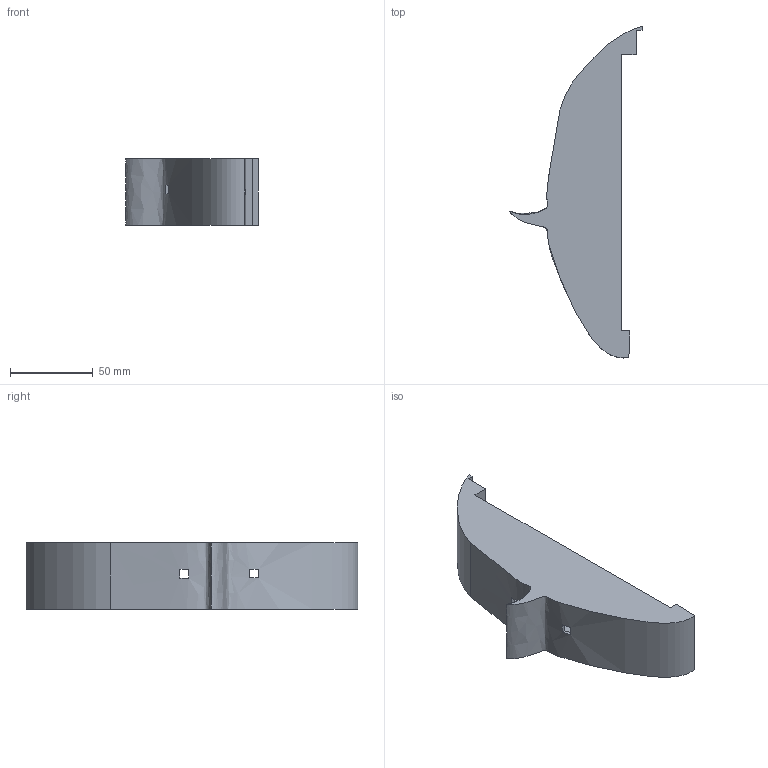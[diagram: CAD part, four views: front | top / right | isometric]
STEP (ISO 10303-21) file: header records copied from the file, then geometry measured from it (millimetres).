
FILE_DESCRIPTION(/* description */ ('STEP AP242 Edition 2','CAx-IF Rec.Pracs.---Representation and Presentation of Product Manufacturing Information (PMI)---4.0---2014-10-13','CAx-IF Rec.Pracs.---3D Tessellated Geometry---0.4---2014-09-14','2;1','CAx-IF Rec.Pracs.---User Defined Attributes---1.5---2016-08-15'),/* implementation_level */ '2;1');
FILE_NAME(/* name */ 'Controller - Top',/* time_stamp */ '2026-04-22T00:25:01Z',/* author */ (''),/* organization */ (''),/* preprocessor_version */ 'ST-DEVELOPER v20',/* originating_system */ 'ONSHAPE BY PTC INC, 1.213',/* authorisation */ ' ');
FILE_SCHEMA (('AP242_MANAGED_MODEL_BASED_3D_ENGINEERING_MIM_LF { 1 0 10303 442 3 1 4 }'));
Length unit declared in the file: metre
Products named in the file (1): Top
Bounding box: 79.79 x 200.38 x 40 mm (x, y, z)
Volume: 48282.3 mm3; surface area: 50518.1 mm2
Topology: 1 solids, 1 shells, 33 faces, 89 edges, 58 vertices
Faces by surface type: plane 26, bspline 5, cylinder 2
Full cylindrical faces by diameter (mm): 2.499 x1, 2.5 x1
Entity records: 1433 total; most frequent: CARTESIAN_POINT 620, ORIENTED_EDGE 174, DIRECTION 131, EDGE_CURVE 87, LINE 65, VECTOR 65, VERTEX_POINT 58, EDGE_LOOP 43
